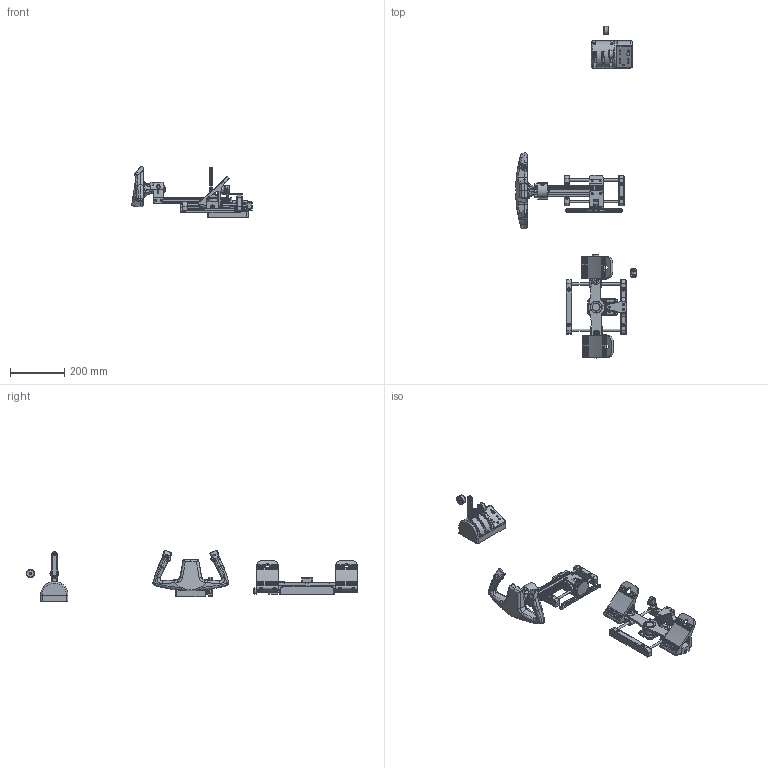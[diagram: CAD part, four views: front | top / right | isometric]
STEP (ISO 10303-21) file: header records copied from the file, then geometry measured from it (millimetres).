
FILE_DESCRIPTION(/* description */ (''),/* implementation_level */ '2;1');
FILE_NAME(/* name */ 'C:/Users/micha/OneDrive - University of Cincinnati/Projects/Flight Yoke/CAD Files/Flight Yoke v15.step',/* time_stamp */ '2020-11-20T23:46:35-05:00',/* author */ (''),/* organization */ (''),/* preprocessor_version */ 'ST-DEVELOPER v18.1',/* originating_system */ 'Autodesk Translation Framework v9.3.0.1241',/* authorisation */ '');
FILE_SCHEMA (('AUTOMOTIVE_DESIGN { 1 0 10303 214 3 1 1 }'));
Products named in the file (45): Flight Yoke; 550mm 2040 Vslot Extrusion v1 (1) v1; Saitek Cessna Yoke v1; Bearing holder base v1; Component4; Component5; Component6; Component7; Component8; 2485N216_METAL GEAR RACK - 20 DEGREE PRESSURE ANGLE v1; 2664N519_METAL GEAR - 20 DEGREE PRESSURE ANGLE v1; 2485N243_METAL GEAR RACK - 20 DEGREE PRESSURE ANGLE v1; Component12; Component13; Component14; Component15; Component17; Component21; Component22; Component23; Component31; Component24; Component35; Component25; Component34; Component26; Component27; Component28; Component29; Component30; Component33; Component49; Component36; 2664N522_METAL GEAR - 20 DEGREE PRESSURE ANGLE v1; 2664N509_METAL GEAR - 20 DEGREE PRESSURE ANGLE v1; Component40; Component41; Component42; Component43; Component44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
Assembly tree (44 placements, depth 3):
  Flight Yoke
    550mm 2040 Vslot Extrusion v1 (1) v1
    Saitek Cessna Yoke v1
    Bearing holder base v1
    Component4
    Component5
    Component6
    Component7
    Component8
    2485N216_METAL GEAR RACK - 20 DEGREE PRESSURE ANGLE v1
    2664N519_METAL GEAR - 20 DEGREE PRESSURE ANGLE v1
    2485N243_METAL GEAR RACK - 20 DEGREE PRESSURE ANGLE v1
    Component12
    Component13
    Component14
    Component15
    Component17
    Component21
    Component22
    Component23
    Component31
    Component24
      Component35
    Component25
      Component34
    Component26
    Component27
    Component28
    Component29
    Component30
    Component33
      Component49
    Component36
    2664N522_METAL GEAR - 20 DEGREE PRESSURE ANGLE v1
    2664N509_METAL GEAR - 20 DEGREE PRESSURE ANGLE v1
    Component40
    Component41
    Component42
    Component43
    Component44
    Component45
    Component42(Mirror)
    Component43(Mirror)
    Component48
    Component50
Bounding box: 443.7 x 1219.52 x 189.48 mm (x, y, z)
Volume: 2693837.2 mm3; surface area: 727035.5 mm2
Topology: 46 solids, 46 shells, 2656 faces, 7195 edges, 4671 vertices
Faces by surface type: cylinder 1330, plane 886, torus 231, cone 105, bspline 81, sphere 23
Full cylindrical faces by diameter (mm): 2 x12, 2.5 x6, 3 x124, 4 x13, 4.4 x1, 5 x4, 6 x5, 6.15 x3, 6.16 x1, 6.8 x1, 7 x6, 8 x36, 8.5 x1, 9.525 x4, 11 x1, 12 x3, 12.5 x4, 13 x1, 15 x6, 22.5 x1, 24 x1, 25.5 x1, 30 x5, 32 x4, 34 x1, 35 x5, 42 x4, 60 x1
Entity records: 100598 total; most frequent: CARTESIAN_POINT 31317, DIRECTION 14420, ORIENTED_EDGE 14366, EDGE_CURVE 7183, AXIS2_PLACEMENT_3D 5528, VERTEX_POINT 4671, LINE 3364, VECTOR 3364
